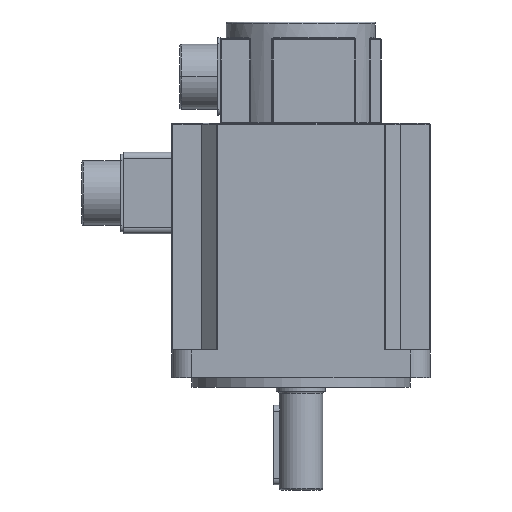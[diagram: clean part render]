
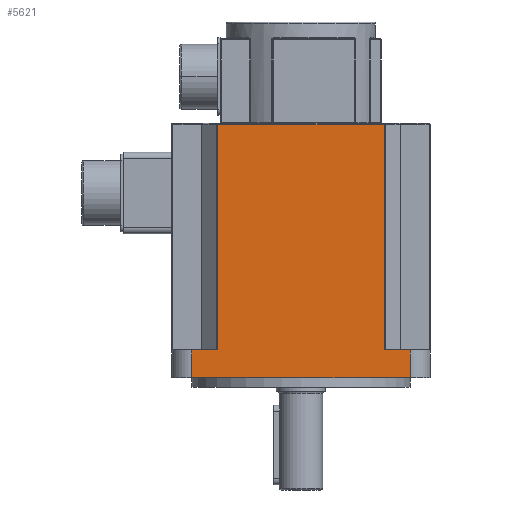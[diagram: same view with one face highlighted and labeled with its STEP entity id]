
A CAD part, front view. The second image highlights one B-rep face of the part: STEP entity #5621.
In plain terms, the highlighted planar face has unit normal (0, -1, 0).
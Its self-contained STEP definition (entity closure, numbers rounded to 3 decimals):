
#9 = ORIENTED_EDGE ( 'NONE', *, *, #2066, .F. ) ;
#11 = ORIENTED_EDGE ( 'NONE', *, *, #5467, .T. ) ;
#12 = ORIENTED_EDGE ( 'NONE', *, *, #5462, .T. ) ;
#13 = ORIENTED_EDGE ( 'NONE', *, *, #5496, .F. ) ;
#15 = ORIENTED_EDGE ( 'NONE', *, *, #287, .T. ) ;
#22 = ORIENTED_EDGE ( 'NONE', *, *, #5486, .F. ) ;
#287 = EDGE_CURVE ( 'NONE', #6655, #6783, #4134, .T. ) ;
#580 = AXIS2_PLACEMENT_3D ( 'NONE', #4739, #4747, #4748 ) ;
#910 = CARTESIAN_POINT ( 'NONE',  ( -42.5, -65., 132.3 ) ) ;
#913 = DIRECTION ( 'NONE',  ( -1., 0., 0. ) ) ;
#1953 = CARTESIAN_POINT ( 'NONE',  ( -55., -65., 4.8 ) ) ;
#1964 = DIRECTION ( 'NONE',  ( 1., 0., 0. ) ) ;
#2066 = EDGE_CURVE ( 'NONE', #6575, #6659, #4439, .T. ) ;
#2096 = EDGE_CURVE ( 'NONE', #6837, #6727, #4483, .T. ) ;
#2382 = EDGE_LOOP ( 'NONE', ( #11, #22, #12, #15, #13, #9, #3104, #3083 ) ) ;
#2636 = CARTESIAN_POINT ( 'NONE',  ( -55., -65., 18.8 ) ) ;
#2637 = DIRECTION ( 'NONE',  ( 0., 0., -1. ) ) ;
#2645 = CARTESIAN_POINT ( 'NONE',  ( -42., -65., 18.8 ) ) ;
#2646 = DIRECTION ( 'NONE',  ( 0., 0., -1. ) ) ;
#2678 = CARTESIAN_POINT ( 'NONE',  ( -55., -65., 18.8 ) ) ;
#2692 = DIRECTION ( 'NONE',  ( 1., 0., 0. ) ) ;
#2706 = CARTESIAN_POINT ( 'NONE',  ( 55., -65., 18.8 ) ) ;
#2707 = DIRECTION ( 'NONE',  ( 0., 0., -1. ) ) ;
#2807 = VECTOR ( 'NONE', #3892, 1000. ) ;
#2809 = LINE ( 'NONE', #3891, #2807 ) ;
#3083 = ORIENTED_EDGE ( 'NONE', *, *, #2096, .T. ) ;
#3104 = ORIENTED_EDGE ( 'NONE', *, *, #5863, .T. ) ;
#3891 = CARTESIAN_POINT ( 'NONE',  ( 42., -65., 18.8 ) ) ;
#3892 = DIRECTION ( 'NONE',  ( 0., 0., 1. ) ) ;
#4134 = LINE ( 'NONE', #1953, #4139 ) ;
#4139 = VECTOR ( 'NONE', #1964, 1000. ) ;
#4439 = LINE ( 'NONE', #5418, #4442 ) ;
#4442 = VECTOR ( 'NONE', #5420, 1000. ) ;
#4483 = LINE ( 'NONE', #910, #4485 ) ;
#4485 = VECTOR ( 'NONE', #913, 1000. ) ;
#4739 = CARTESIAN_POINT ( 'NONE',  ( -55., -65., 18.8 ) ) ;
#4744 = PLANE ( 'NONE',  #580 ) ;
#4747 = DIRECTION ( 'NONE',  ( 0., 1., 0. ) ) ;
#4748 = DIRECTION ( 'NONE',  ( 0., 0., 1. ) ) ;
#5418 = CARTESIAN_POINT ( 'NONE',  ( -55., -65., 18.8 ) ) ;
#5420 = DIRECTION ( 'NONE',  ( 1., 0., 0. ) ) ;
#5462 = EDGE_CURVE ( 'NONE', #6807, #6655, #7229, .T. ) ;
#5467 = EDGE_CURVE ( 'NONE', #6727, #6817, #7238, .T. ) ;
#5486 = EDGE_CURVE ( 'NONE', #6807, #6817, #7261, .T. ) ;
#5496 = EDGE_CURVE ( 'NONE', #6659, #6783, #7288, .T. ) ;
#5621 = ADVANCED_FACE ( 'NONE', ( #7500 ), #4744, .F. ) ;
#5863 = EDGE_CURVE ( 'NONE', #6575, #6837, #2809, .T. ) ;
#6050 = CARTESIAN_POINT ( 'NONE',  ( 42., -65., 18.8 ) ) ;
#6130 = CARTESIAN_POINT ( 'NONE',  ( -55., -65., 4.8 ) ) ;
#6134 = CARTESIAN_POINT ( 'NONE',  ( 55., -65., 18.8 ) ) ;
#6202 = CARTESIAN_POINT ( 'NONE',  ( -42., -65., 132.3 ) ) ;
#6258 = CARTESIAN_POINT ( 'NONE',  ( 55., -65., 4.8 ) ) ;
#6282 = CARTESIAN_POINT ( 'NONE',  ( -55., -65., 18.8 ) ) ;
#6292 = CARTESIAN_POINT ( 'NONE',  ( -42., -65., 18.8 ) ) ;
#6312 = CARTESIAN_POINT ( 'NONE',  ( 42., -65., 132.3 ) ) ;
#6575 = VERTEX_POINT ( 'NONE', #6050 ) ;
#6655 = VERTEX_POINT ( 'NONE', #6130 ) ;
#6659 = VERTEX_POINT ( 'NONE', #6134 ) ;
#6727 = VERTEX_POINT ( 'NONE', #6202 ) ;
#6783 = VERTEX_POINT ( 'NONE', #6258 ) ;
#6807 = VERTEX_POINT ( 'NONE', #6282 ) ;
#6817 = VERTEX_POINT ( 'NONE', #6292 ) ;
#6837 = VERTEX_POINT ( 'NONE', #6312 ) ;
#7229 = LINE ( 'NONE', #2636, #7232 ) ;
#7232 = VECTOR ( 'NONE', #2637, 1000. ) ;
#7238 = LINE ( 'NONE', #2645, #7241 ) ;
#7241 = VECTOR ( 'NONE', #2646, 1000. ) ;
#7261 = LINE ( 'NONE', #2678, #7273 ) ;
#7273 = VECTOR ( 'NONE', #2692, 1000. ) ;
#7288 = LINE ( 'NONE', #2706, #7290 ) ;
#7290 = VECTOR ( 'NONE', #2707, 1000. ) ;
#7500 = FACE_OUTER_BOUND ( 'NONE', #2382, .T. ) ;
